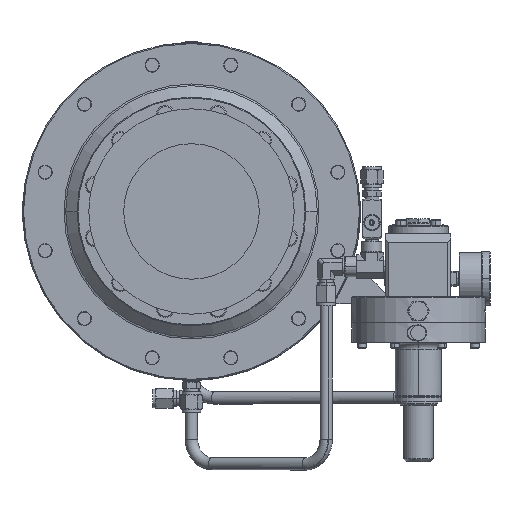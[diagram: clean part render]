
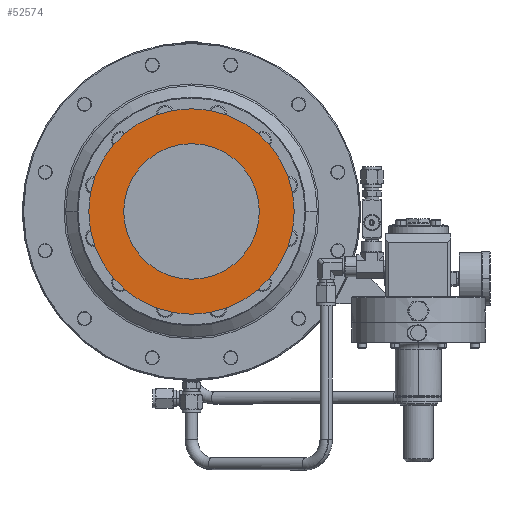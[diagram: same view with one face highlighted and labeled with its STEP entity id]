
A CAD part, front view. The second image highlights one B-rep face of the part: STEP entity #52574.
In plain terms, the highlighted planar face has unit normal (0, -1, 0).
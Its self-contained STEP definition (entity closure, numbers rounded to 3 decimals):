
#22119=CARTESIAN_POINT('',(0.,-119.55,0.));
#22120=DIRECTION('',(0.,1.,0.));
#22121=DIRECTION('',(0.,0.,1.));
#22122=AXIS2_PLACEMENT_3D('',#22119,#22120,#22121);
#22124=CARTESIAN_POINT('',(0.,-119.55,0.));
#22125=DIRECTION('',(0.,1.,0.));
#22126=DIRECTION('',(0.,0.,-1.));
#22127=AXIS2_PLACEMENT_3D('',#22124,#22125,#22126);
#22129=CARTESIAN_POINT('',(0.,-119.55,0.));
#22130=DIRECTION('',(0.,-1.,0.));
#22131=DIRECTION('',(0.,0.,1.));
#22132=AXIS2_PLACEMENT_3D('',#22129,#22130,#22131);
#22134=CARTESIAN_POINT('',(0.,-119.55,0.));
#22135=DIRECTION('',(0.,-1.,0.));
#22136=DIRECTION('',(0.,0.,-1.));
#22137=AXIS2_PLACEMENT_3D('',#22134,#22135,#22136);
#24028=CARTESIAN_POINT('',(0.,-119.55,-66.));
#24029=VERTEX_POINT('',#24028);
#24030=CARTESIAN_POINT('',(0.,-119.55,66.));
#24031=VERTEX_POINT('',#24030);
#24032=CARTESIAN_POINT('',(0.,-119.55,100.));
#24033=CARTESIAN_POINT('',(0.,-119.55,-100.));
#24034=VERTEX_POINT('',#24032);
#24035=VERTEX_POINT('',#24033);
#52559=CARTESIAN_POINT('',(0.,-119.55,0.));
#52560=DIRECTION('',(0.,-1.,0.));
#52561=DIRECTION('',(0.,0.,1.));
#52562=AXIS2_PLACEMENT_3D('',#52559,#52560,#52561);
#52563=PLANE('',#52562);
#52564=ORIENTED_EDGE('',*,*,#52553,.T.);
#52565=ORIENTED_EDGE('',*,*,#52539,.T.);
#52566=EDGE_LOOP('',(#52564,#52565));
#52567=FACE_OUTER_BOUND('',#52566,.F.);
#52569=ORIENTED_EDGE('',*,*,#52568,.T.);
#52571=ORIENTED_EDGE('',*,*,#52570,.T.);
#52572=EDGE_LOOP('',(#52569,#52571));
#52573=FACE_BOUND('',#52572,.F.);
#52574=ADVANCED_FACE('',(#52567,#52573),#52563,.T.);
#22123=CIRCLE('',#22122,100.);
#22128=CIRCLE('',#22127,100.);
#22133=CIRCLE('',#22132,66.);
#22138=CIRCLE('',#22137,66.);
#52539=EDGE_CURVE('',#24035,#24034,#22128,.T.);
#52553=EDGE_CURVE('',#24034,#24035,#22123,.T.);
#52568=EDGE_CURVE('',#24031,#24029,#22133,.T.);
#52570=EDGE_CURVE('',#24029,#24031,#22138,.T.);
